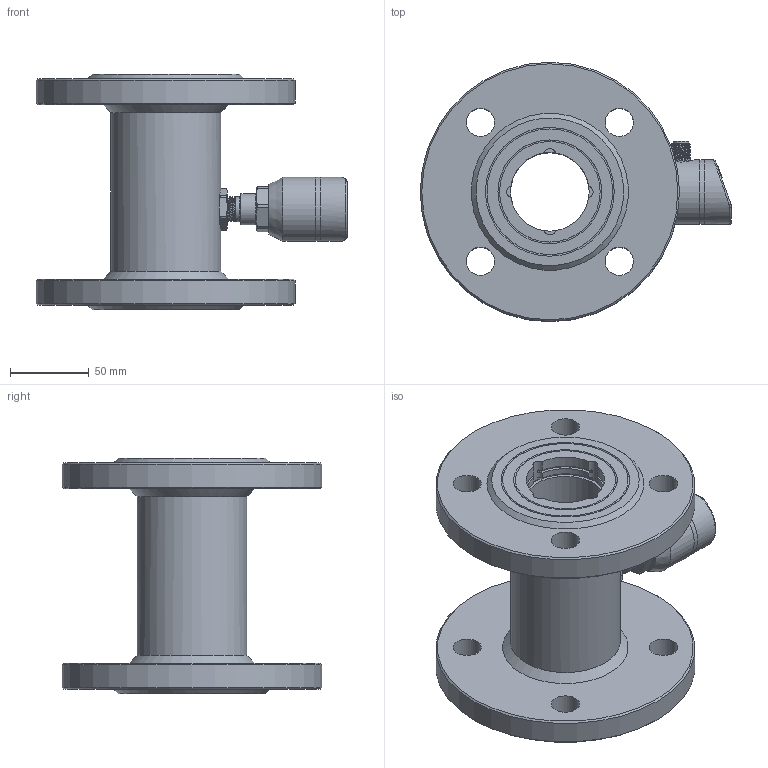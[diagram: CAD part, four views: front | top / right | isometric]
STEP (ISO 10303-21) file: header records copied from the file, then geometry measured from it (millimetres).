
FILE_DESCRIPTION( (''), '2;1');
FILE_NAME( 'QTKA_DN50_flange_1.step', '2026-08-04T10:54:37+08:00', (''), (''), '', '', '');
FILE_SCHEMA (('AUTOMOTIVE_DESIGN { 1 0 10303 214 3 1 1 1 }'));
Length unit declared in the file: millimetre
Products named in the file (1): QTKA DN50_flange_1
Bounding box: 198.3 x 165 x 150 mm (x, y, z)
Volume: 897265.9 mm3; surface area: 169141.4 mm2
Topology: 6 solids, 7 shells, 517 faces, 1278 edges, 819 vertices
Faces by surface type: cylinder 189, plane 181, cone 54, bspline 44, torus 43, sphere 6
Full cylindrical faces by diameter (mm): 1 x5, 2.7 x4, 8.4 x1, 9.7 x1, 9.8 x1, 10.1 x1, 11.6 x1, 12 x1, 15.9 x1, 16.5 x1, 18 x8, 20 x1, 23 x3, 26 x4, 26.1 x1, 37 x1, 41 x3, 50 x1, 70 x1, 165 x2
Entity records: 32062 total; most frequent: CARTESIAN_POINT 18886, DIRECTION 2446, ORIENTED_EDGE 2318, EDGE_CURVE 1159, AXIS2_PLACEMENT_3D 1003, VERTEX_POINT 774, EDGE_LOOP 657, CIRCLE 524
